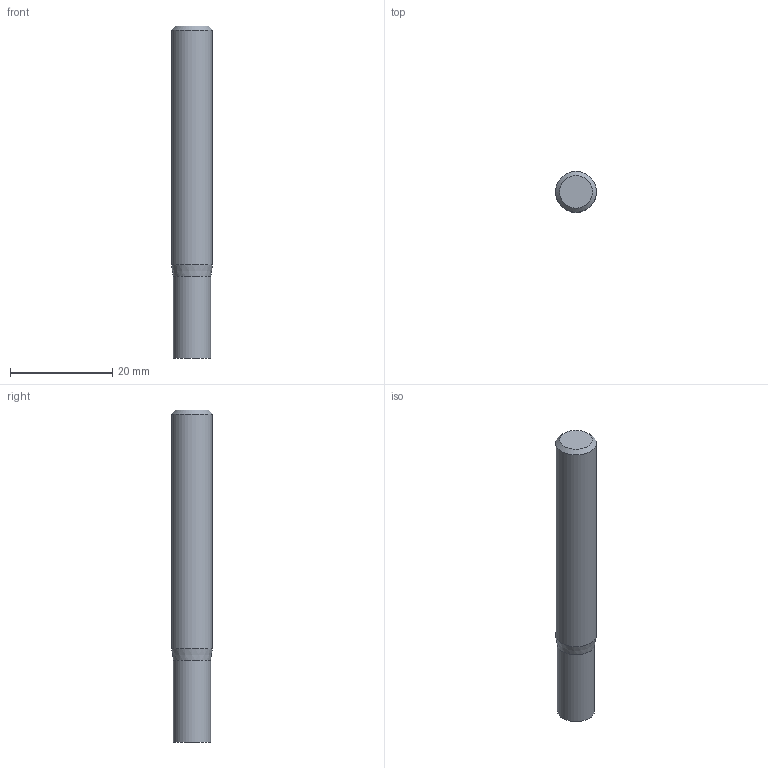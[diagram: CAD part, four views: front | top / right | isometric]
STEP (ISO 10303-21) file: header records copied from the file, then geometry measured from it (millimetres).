
FILE_DESCRIPTION((''),'2;1');
FILE_NAME('C:\Users\nsx150\AppData\Local\Temp\Mastercam 2021\98T1Q6BTT1\TEMP.step','2021-10-21T14:49:22',(''),(''),'STEP Write','Mastercam 2021 ... CNC Software, Inc.','');
FILE_SCHEMA(('AUTOMOTIVE_DESIGN'));
Length unit declared in the file: millimetre
Products named in the file (1): None
Bounding box: 8 x 8 x 65 mm (x, y, z)
Volume: 3115.7 mm3; surface area: 1759.9 mm2
Topology: 2 solids, 2 shells, 8 faces, 10 edges, 6 vertices
Faces by surface type: plane 4, cylinder 2, cone 2
Full cylindrical faces by diameter (mm): 7.3 x1, 8 x1
Entity records: 190 total; most frequent: DIRECTION 32, CARTESIAN_POINT 22, AXIS2_PLACEMENT_3D 16, ORIENTED_EDGE 12, EDGE_LOOP 12, STYLED_ITEM 11, ADVANCED_FACE 8, VERTEX_POINT 6
